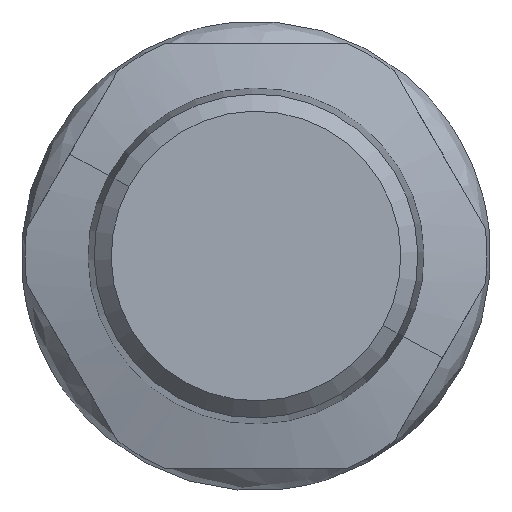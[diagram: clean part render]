
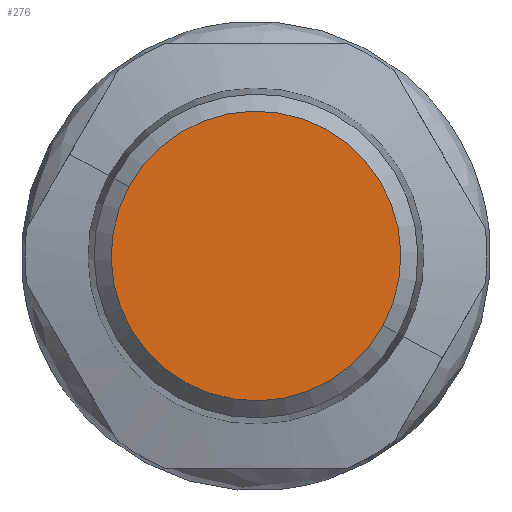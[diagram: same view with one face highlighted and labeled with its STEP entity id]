
A CAD part, left-side view. The second image highlights one B-rep face of the part: STEP entity #276.
In plain terms, the highlighted free-form (B-spline) face has degree [1, 1] with [2, 2] control points.
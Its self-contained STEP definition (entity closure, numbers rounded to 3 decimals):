
#276=ADVANCED_FACE('',(#695),#696,.T.);
#562=VERTEX_POINT('',#984);
#566=VERTEX_POINT('',#988);
#568=EDGE_CURVE('',#562,#566,#990,.T.);
#572=EDGE_CURVE('',#566,#562,#994,.T.);
#695=FACE_OUTER_BOUND('',#1571,.T.);
#696=B_SPLINE_SURFACE_WITH_KNOTS('',1,1,((#1572,#1573),(#1574,#1575)),.UNSPECIFIED.,.F.,.F.,.F.,(2,2),(2,2),(0.142,0.858),(0.142,0.858),.UNSPECIFIED.);
#984=CARTESIAN_POINT('',(-27.184,-10.18,-5.561));
#988=CARTESIAN_POINT('',(-27.184,10.18,5.561));
#990=CIRCLE('',#2197,11.6);
#994=CIRCLE('',#2204,11.6);
#1571=EDGE_LOOP('',(#2412,#2413));
#1572=CARTESIAN_POINT('',(-27.184,11.633,-11.633));
#1573=CARTESIAN_POINT('',(-27.184,11.633,11.633));
#1574=CARTESIAN_POINT('',(-27.184,-11.633,-11.633));
#1575=CARTESIAN_POINT('',(-27.184,-11.633,11.633));
#2197=AXIS2_PLACEMENT_3D('',#2567,#2568,#2569);
#2204=AXIS2_PLACEMENT_3D('',#2571,#2572,#2573);
#2412=ORIENTED_EDGE('',*,*,#572,.F.);
#2413=ORIENTED_EDGE('',*,*,#568,.F.);
#2567=CARTESIAN_POINT('',(-27.184,0.,0.));
#2568=DIRECTION('',(1.0,0.0,0.0));
#2569=DIRECTION('',(0.0,-0.878,-0.479));
#2571=CARTESIAN_POINT('',(-27.184,0.,0.));
#2572=DIRECTION('',(1.0,0.0,-0.0));
#2573=DIRECTION('',(0.0,0.878,0.479));
